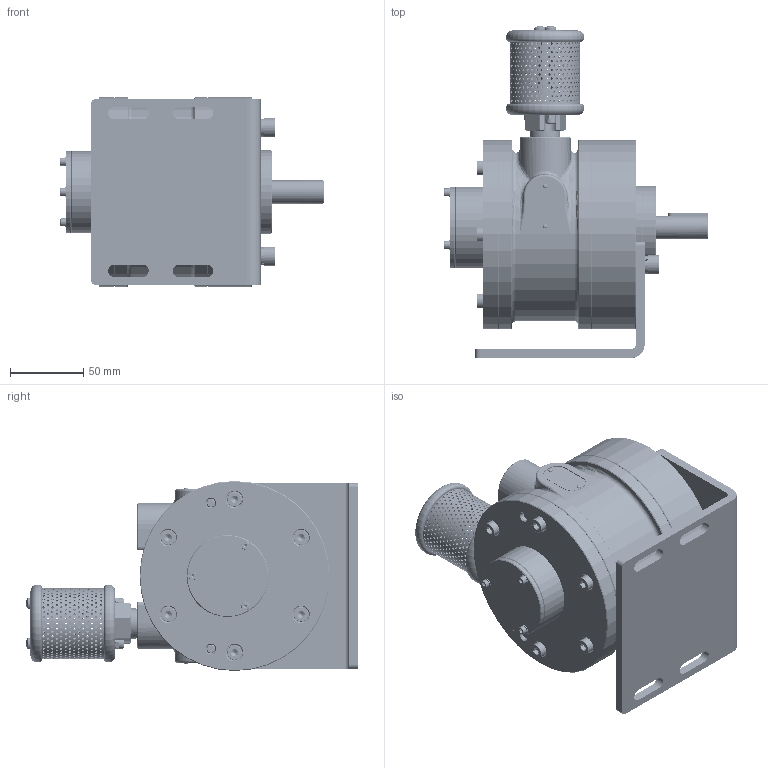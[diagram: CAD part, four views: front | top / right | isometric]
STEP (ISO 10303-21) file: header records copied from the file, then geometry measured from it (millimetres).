
FILE_DESCRIPTION (( 'STEP AP214' ), '1' );
FILE_NAME ('6VMS-Foot (Alu. End Plates)_23-04-26.STEP', '2026-04-24T06:39:49', ( '' ), ( '' ), 'SwSTEP 2.0', 'SolidWorks 2017', '' );
FILE_SCHEMA (( 'AUTOMOTIVE_DESIGN' ));
Length unit declared in the file: millimetre
Products named in the file (2): 6VMS-Foot (Alu. End Plates)_23-04-26
Bounding box: 180.25 x 227.17 x 130 mm (x, y, z)
Volume: 642515.7 mm3; surface area: 289836.6 mm2
Topology: 65 solids, 65 shells, 4818 faces, 12623 edges, 7895 vertices
Faces by surface type: cylinder 2526, cone 1366, plane 712, torus 168, bspline 28, sphere 18
Entity records: 245261 total; most frequent: CARTESIAN_POINT 75901, ORIENTED_EDGE 25066, DIRECTION 22285, EDGE_CURVE 12533, AXIS2_PLACEMENT_3D 8716, VERTEX_POINT 7891, EDGE_LOOP 6460, LINE 4853
